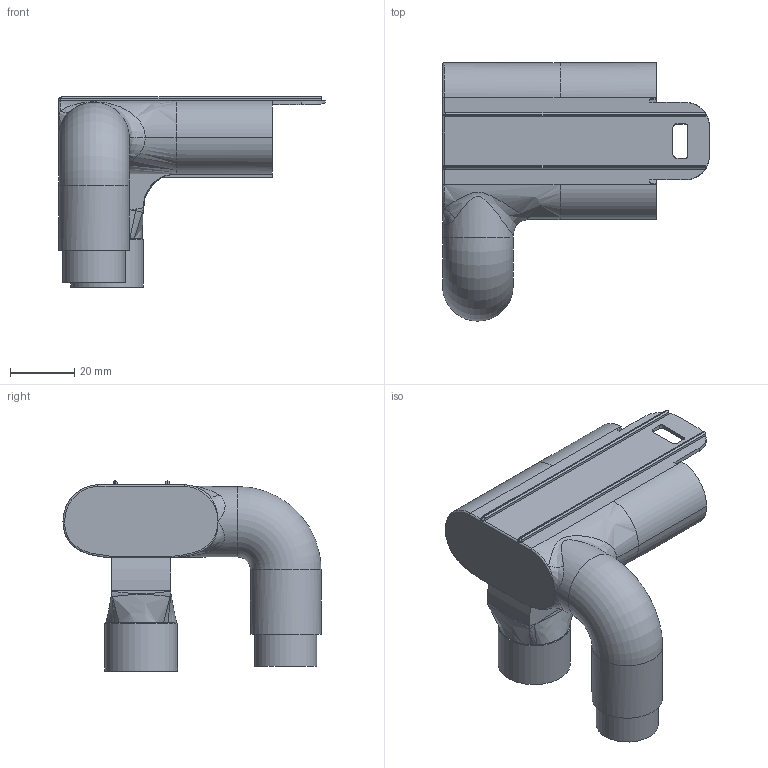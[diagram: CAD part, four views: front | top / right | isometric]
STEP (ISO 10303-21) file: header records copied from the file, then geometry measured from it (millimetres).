
FILE_DESCRIPTION(/* description */ ('STEP AP203'),/* implementation_level */ '2;1');
FILE_NAME(/* name */ 'D:\Isinnova\Ospedale Chiari\Maschera Decathlon\Loro maschera\Charlotte Valve 1 SLS.stp',/* time_stamp */ '2020-03-24T12:34:35+01:00',/* author */ ('ISINNOVA-01'),/* organization */ (''),/* preprocessor_version */ 'ST-DEVELOPER v16.13',/* originating_system */ 'Autodesk Inventor 2018',/* authorisation */ '');
FILE_SCHEMA (('AUTOMOTIVE_DESIGN { 1 0 10303 214 3 1 1 }'));
Length unit declared in the file: millimetre
Products named in the file (1): Charlotte Valve 1-SLS
Bounding box: 83.14 x 80.4 x 59.2 mm (x, y, z)
Volume: 27007.6 mm3; surface area: 33855.1 mm2
Topology: 1 solids, 1 shells, 232 faces, 660 edges, 418 vertices
Faces by surface type: bspline 106, plane 76, cylinder 45, torus 5
Full cylindrical faces by diameter (mm): 17.4 x1, 19.4 x4, 22 x2, 22.6 x1
Entity records: 14309 total; most frequent: CARTESIAN_POINT 8979, ORIENTED_EDGE 1264, DIRECTION 844, EDGE_CURVE 632, VERTEX_POINT 414, AXIS2_PLACEMENT_3D 296, LINE 252, VECTOR 252
